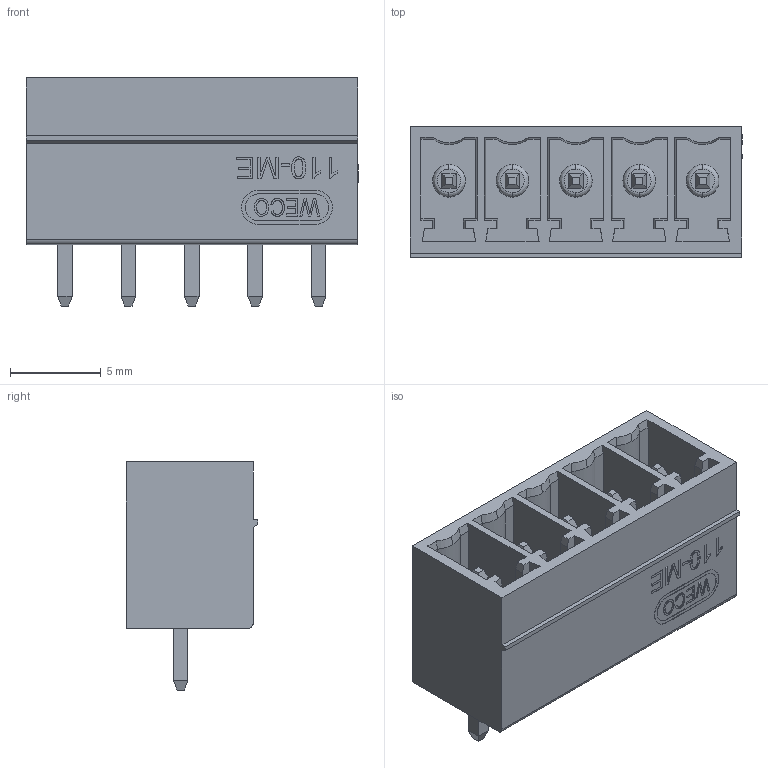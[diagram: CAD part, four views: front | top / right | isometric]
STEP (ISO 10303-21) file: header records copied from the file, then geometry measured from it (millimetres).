
FILE_DESCRIPTION (( 'STEP AP203' ), '1' );
FILE_NAME ('110-ME-121-05.STEP', '2025-03-25T19:59:19', ( '' ), ( '' ), 'SwSTEP 2.0', 'SolidWorks 2016', '' );
FILE_SCHEMA (( 'CONFIG_CONTROL_DESIGN' ));
Length unit declared in the file: millimetre
Products named in the file (1): 110-ME-121-05
Bounding box: 18.32 x 7.25 x 12.6 mm (x, y, z)
Volume: 631.7 mm3; surface area: 1648.2 mm2
Topology: 1 solids, 1 shells, 713 faces, 1937 edges, 1260 vertices
Faces by surface type: plane 632, cylinder 49, bspline 22, cone 10
Entity records: 22336 total; most frequent: CARTESIAN_POINT 4380, ORIENTED_EDGE 3874, DIRECTION 3399, EDGE_CURVE 1937, VECTOR 1761, LINE 1761, VERTEX_POINT 1260, AXIS2_PLACEMENT_3D 819
